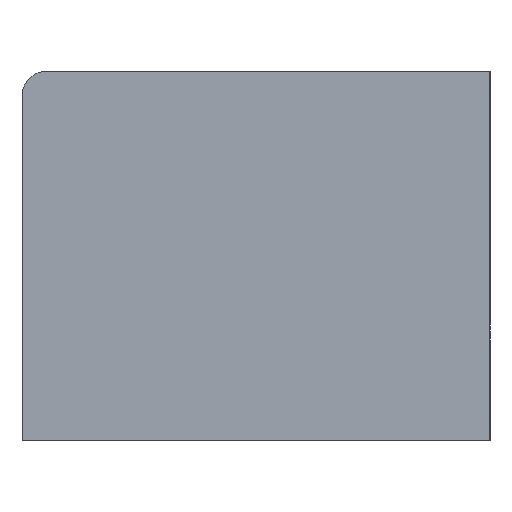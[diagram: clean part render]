
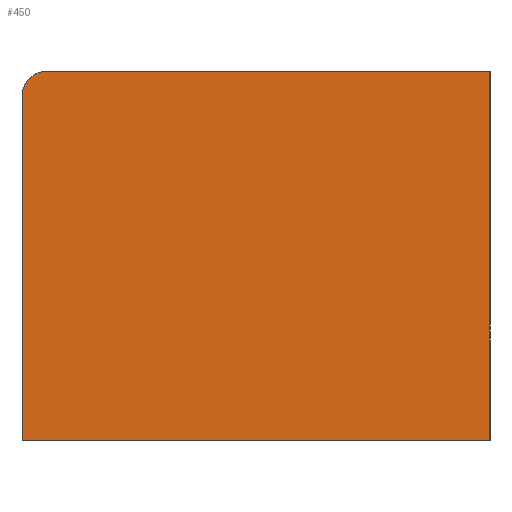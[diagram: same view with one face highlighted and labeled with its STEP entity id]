
A CAD part, left-side view. The second image highlights one B-rep face of the part: STEP entity #450.
In plain terms, the highlighted planar face has unit normal (-1, 0, 0).
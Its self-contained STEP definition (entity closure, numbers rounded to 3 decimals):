
#233=CARTESIAN_POINT('Vertex',(0.,0.,75.)) ;
#236=CARTESIAN_POINT('Line Origine',(0.,0.,37.5)) ;
#240=CARTESIAN_POINT('Vertex',(0.,0.,0.)) ;
#329=CARTESIAN_POINT('Vertex',(0.,95.,0.)) ;
#332=CARTESIAN_POINT('Line Origine',(0.,95.,35.)) ;
#336=CARTESIAN_POINT('Vertex',(0.,95.,70.)) ;
#396=CARTESIAN_POINT('Line Origine',(0.,47.5,0.)) ;
#414=CARTESIAN_POINT('Axis2P3D Location',(0.,90.,70.)) ;
#418=CARTESIAN_POINT('Vertex',(0.,90.,75.)) ;
#433=CARTESIAN_POINT('Axis2P3D Location',(0.,95.,0.)) ;
#438=CARTESIAN_POINT('Line Origine',(0.,45.,75.)) ;
#237=DIRECTION('Vector Direction',(0.,0.,1.)) ;
#333=DIRECTION('Vector Direction',(0.,0.,1.)) ;
#397=DIRECTION('Vector Direction',(0.,-1.,0.)) ;
#415=DIRECTION('Axis2P3D Direction',(-1.,0.,0.)) ;
#434=DIRECTION('Axis2P3D Direction',(-1.,0.,0.)) ;
#435=DIRECTION('Axis2P3D XDirection',(0.,-1.,0.)) ;
#439=DIRECTION('Vector Direction',(0.,1.,0.)) ;
#416=AXIS2_PLACEMENT_3D('Circle Axis2P3D',#414,#415,$) ;
#436=AXIS2_PLACEMENT_3D('Plane Axis2P3D',#433,#434,#435) ;
#444=ORIENTED_EDGE('',*,*,#242,.T.) ;
#445=ORIENTED_EDGE('',*,*,#442,.T.) ;
#446=ORIENTED_EDGE('',*,*,#420,.T.) ;
#447=ORIENTED_EDGE('',*,*,#338,.F.) ;
#448=ORIENTED_EDGE('',*,*,#400,.T.) ;
#238=VECTOR('Line Direction',#237,1.) ;
#334=VECTOR('Line Direction',#333,1.) ;
#398=VECTOR('Line Direction',#397,1.) ;
#440=VECTOR('Line Direction',#439,1.) ;
#450=ADVANCED_FACE('PartBody',(#449),#437,.T.) ;
#417=CIRCLE('generated circle',#416,5.) ;
#242=EDGE_CURVE('',#241,#234,#239,.T.) ;
#338=EDGE_CURVE('',#330,#337,#335,.T.) ;
#400=EDGE_CURVE('',#330,#241,#399,.T.) ;
#420=EDGE_CURVE('',#419,#337,#417,.T.) ;
#442=EDGE_CURVE('',#234,#419,#441,.T.) ;
#443=EDGE_LOOP('',(#444,#445,#446,#447,#448)) ;
#449=FACE_OUTER_BOUND('',#443,.T.) ;
#239=LINE('Line',#236,#238) ;
#335=LINE('Line',#332,#334) ;
#399=LINE('Line',#396,#398) ;
#441=LINE('Line',#438,#440) ;
#437=PLANE('',#436) ;
#234=VERTEX_POINT('',#233) ;
#241=VERTEX_POINT('',#240) ;
#330=VERTEX_POINT('',#329) ;
#337=VERTEX_POINT('',#336) ;
#419=VERTEX_POINT('',#418) ;
